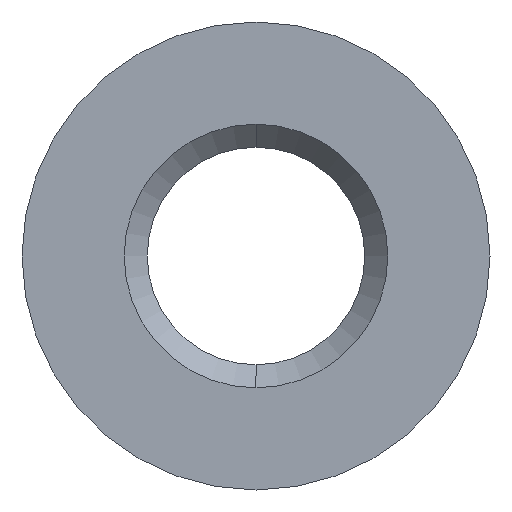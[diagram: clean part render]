
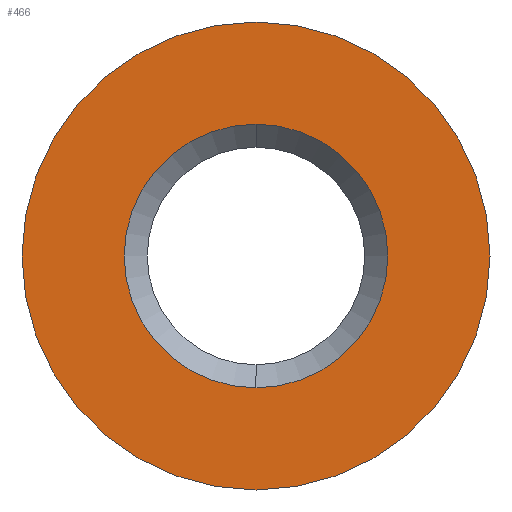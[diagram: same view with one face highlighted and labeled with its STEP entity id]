
A CAD part, left-side view. The second image highlights one B-rep face of the part: STEP entity #466.
In plain terms, the highlighted planar face has unit normal (-1, 0, 0).
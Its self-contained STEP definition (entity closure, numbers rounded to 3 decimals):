
#23 = EDGE_CURVE ( 'NONE', #746, #210, #36, .T. ) ;
#34 = DIRECTION ( 'NONE',  ( 1., 0., 0. ) ) ;
#36 = CIRCLE ( 'NONE', #379, 2. ) ;
#94 = EDGE_CURVE ( 'NONE', #967, #475, #257, .T. ) ;
#101 = ORIENTED_EDGE ( 'NONE', *, *, #618, .T. ) ;
#109 = CARTESIAN_POINT ( 'NONE',  ( -8.2, 0., 3.55 ) ) ;
#113 = FACE_BOUND ( 'NONE', #859, .T. ) ;
#150 = DIRECTION ( 'NONE',  ( 0., 0., 1. ) ) ;
#209 = EDGE_CURVE ( 'NONE', #475, #967, #606, .T. ) ;
#210 = VERTEX_POINT ( 'NONE', #1079 ) ;
#257 = CIRCLE ( 'NONE', #560, 3.55 ) ;
#290 = DIRECTION ( 'NONE',  ( 0., 0., 1. ) ) ;
#302 = ORIENTED_EDGE ( 'NONE', *, *, #94, .T. ) ;
#330 = CIRCLE ( 'NONE', #670, 2. ) ;
#379 = AXIS2_PLACEMENT_3D ( 'NONE', #786, #34, #706 ) ;
#403 = DIRECTION ( 'NONE',  ( 1., 0., 0. ) ) ;
#452 = PLANE ( 'NONE',  #462 ) ;
#462 = AXIS2_PLACEMENT_3D ( 'NONE', #469, #855, #290 ) ;
#466 = ADVANCED_FACE ( 'NONE', ( #113, #531 ), #452, .T. ) ;
#468 = CARTESIAN_POINT ( 'NONE',  ( -8.2, 0., -3.55 ) ) ;
#469 = CARTESIAN_POINT ( 'NONE',  ( -8.2, 0., 0. ) ) ;
#475 = VERTEX_POINT ( 'NONE', #109 ) ;
#477 = CARTESIAN_POINT ( 'NONE',  ( -8.2, 0., 0. ) ) ;
#489 = DIRECTION ( 'NONE',  ( -1., 0., 0. ) ) ;
#531 = FACE_OUTER_BOUND ( 'NONE', #569, .T. ) ;
#560 = AXIS2_PLACEMENT_3D ( 'NONE', #564, #489, #150 ) ;
#564 = CARTESIAN_POINT ( 'NONE',  ( -8.2, 0., 0. ) ) ;
#569 = EDGE_LOOP ( 'NONE', ( #302, #716 ) ) ;
#606 = CIRCLE ( 'NONE', #1064, 3.55 ) ;
#618 = EDGE_CURVE ( 'NONE', #210, #746, #330, .T. ) ;
#670 = AXIS2_PLACEMENT_3D ( 'NONE', #477, #403, #796 ) ;
#671 = DIRECTION ( 'NONE',  ( 0., 0., 1. ) ) ;
#706 = DIRECTION ( 'NONE',  ( 0., 0., 1. ) ) ;
#716 = ORIENTED_EDGE ( 'NONE', *, *, #209, .T. ) ;
#746 = VERTEX_POINT ( 'NONE', #930 ) ;
#757 = DIRECTION ( 'NONE',  ( -1., 0., 0. ) ) ;
#786 = CARTESIAN_POINT ( 'NONE',  ( -8.2, 0., 0. ) ) ;
#796 = DIRECTION ( 'NONE',  ( 0., 0., 1. ) ) ;
#855 = DIRECTION ( 'NONE',  ( -1., 0., 0. ) ) ;
#859 = EDGE_LOOP ( 'NONE', ( #101, #1047 ) ) ;
#930 = CARTESIAN_POINT ( 'NONE',  ( -8.2, 0., -2. ) ) ;
#932 = CARTESIAN_POINT ( 'NONE',  ( -8.2, 0., 0. ) ) ;
#967 = VERTEX_POINT ( 'NONE', #468 ) ;
#1047 = ORIENTED_EDGE ( 'NONE', *, *, #23, .T. ) ;
#1064 = AXIS2_PLACEMENT_3D ( 'NONE', #932, #757, #671 ) ;
#1079 = CARTESIAN_POINT ( 'NONE',  ( -8.2, 0., 2. ) ) ;
